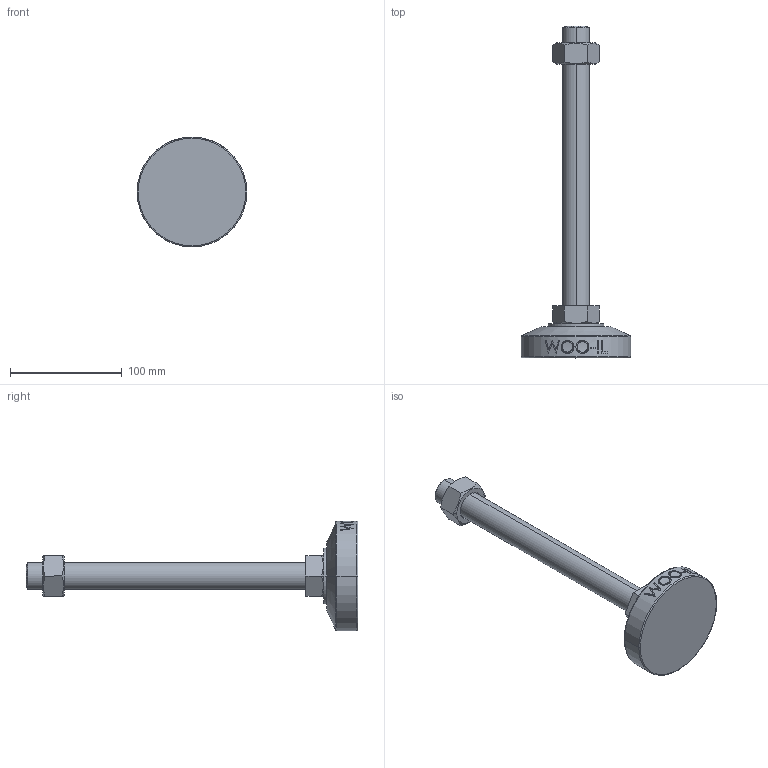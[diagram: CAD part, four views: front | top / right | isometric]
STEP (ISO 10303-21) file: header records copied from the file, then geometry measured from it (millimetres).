
FILE_DESCRIPTION (( 'STEP AP214' ), '1' );
FILE_NAME ('MFB98-M24-250.step', '2022-06-27T08:36:56', ( '' ), ( '' ), 'SwSTEP 2.0', 'SolidWorks 2019', '' );
FILE_SCHEMA (( 'AUTOMOTIVE_DESIGN' ));
Length unit declared in the file: millimetre
Products named in the file (1): MFB98-M24-250
Bounding box: 98 x 296.5 x 98 mm (x, y, z)
Volume: 338623.5 mm3; surface area: 49642.5 mm2
Topology: 3 solids, 3 shells, 97 faces, 225 edges, 144 vertices
Faces by surface type: plane 47, cylinder 16, bspline 16, cone 14, torus 4
Entity records: 4451 total; most frequent: CARTESIAN_POINT 2321, ORIENTED_EDGE 450, DIRECTION 385, EDGE_CURVE 225, AXIS2_PLACEMENT_3D 144, VERTEX_POINT 144, EDGE_LOOP 109, FACE_OUTER_BOUND 97
